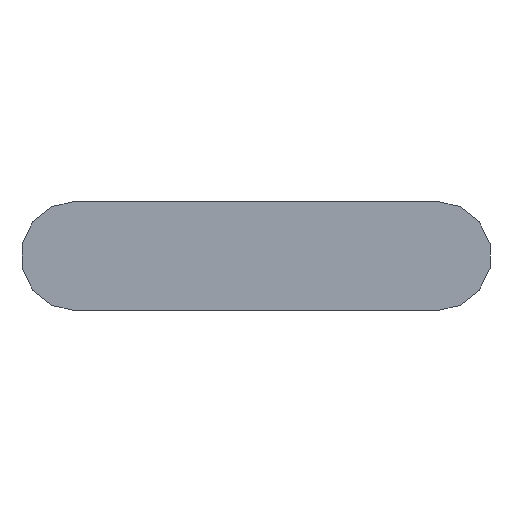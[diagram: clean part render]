
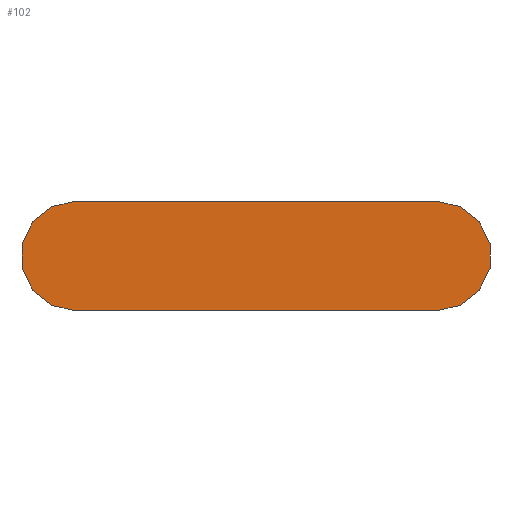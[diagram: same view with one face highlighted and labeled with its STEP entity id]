
A CAD part, front view. The second image highlights one B-rep face of the part: STEP entity #102.
In plain terms, the highlighted planar face has unit normal (0, -1, 0).
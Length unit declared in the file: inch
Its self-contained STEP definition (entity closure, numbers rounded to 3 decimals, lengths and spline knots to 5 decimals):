
#15=CIRCLE('',#119,0.0285);
#17=CIRCLE('',#123,0.0285);
#26=FACE_OUTER_BOUND('',#32,.T.);
#32=EDGE_LOOP('',(#89,#90,#91,#92));
#33=LINE('',#161,#41);
#38=LINE('',#175,#46);
#41=VECTOR('',#131,0.3937);
#46=VECTOR('',#144,0.3937);
#49=VERTEX_POINT('',#159);
#50=VERTEX_POINT('',#160);
#53=VERTEX_POINT('',#168);
#55=VERTEX_POINT('',#174);
#57=EDGE_CURVE('',#49,#50,#33,.T.);
#61=EDGE_CURVE('',#53,#49,#15,.T.);
#64=EDGE_CURVE('',#55,#53,#38,.T.);
#67=EDGE_CURVE('',#50,#55,#17,.T.);
#89=ORIENTED_EDGE('',*,*,#67,.F.);
#90=ORIENTED_EDGE('',*,*,#57,.F.);
#91=ORIENTED_EDGE('',*,*,#61,.F.);
#92=ORIENTED_EDGE('',*,*,#64,.F.);
#96=PLANE('',#126);
#102=ADVANCED_FACE('',(#26),#96,.F.);
#119=AXIS2_PLACEMENT_3D('',#169,#137,#138);
#123=AXIS2_PLACEMENT_3D('',#180,#149,#150);
#126=AXIS2_PLACEMENT_3D('',#183,#155,#156);
#131=DIRECTION('',(-1.,0.,0.));
#137=DIRECTION('center_axis',(0.,1.,0.));
#138=DIRECTION('ref_axis',(0.,0.,1.));
#144=DIRECTION('',(1.,0.,0.));
#149=DIRECTION('center_axis',(0.,1.,0.));
#150=DIRECTION('ref_axis',(0.,0.,-1.));
#155=DIRECTION('center_axis',(0.,1.,0.));
#156=DIRECTION('ref_axis',(1.,0.,0.));
#159=CARTESIAN_POINT('',(0.2165,0.,-0.0285));
#160=CARTESIAN_POINT('',(0.0285,0.,-0.0285));
#161=CARTESIAN_POINT('',(0.2165,0.,-0.0285));
#168=CARTESIAN_POINT('',(0.2165,0.,0.0285));
#169=CARTESIAN_POINT('Origin',(0.2165,0.,0.));
#174=CARTESIAN_POINT('',(0.0285,0.,0.0285));
#175=CARTESIAN_POINT('',(0.0285,0.,0.0285));
#180=CARTESIAN_POINT('Origin',(0.0285,0.,0.));
#183=CARTESIAN_POINT('Origin',(0.1225,0.,0.));
